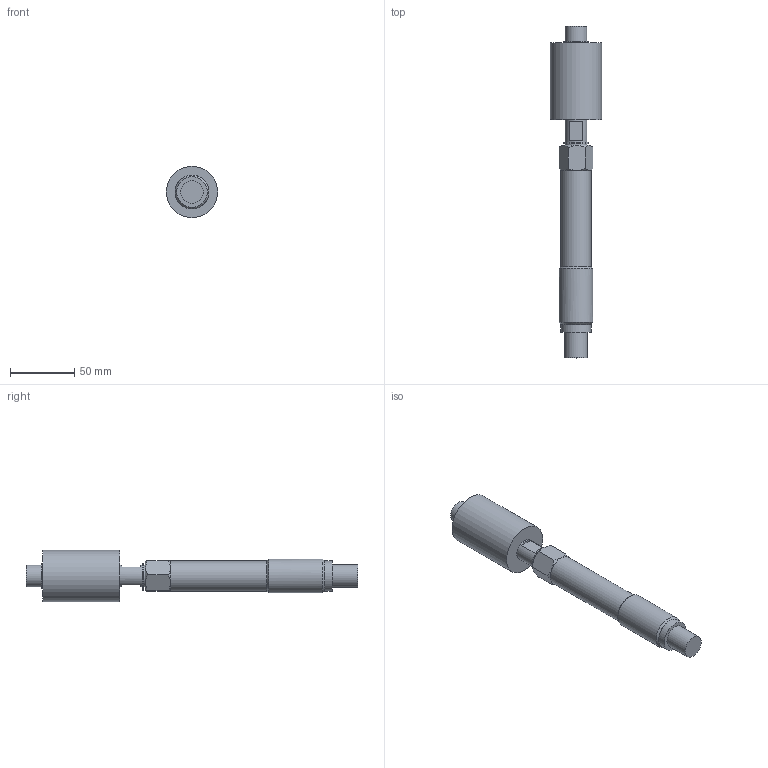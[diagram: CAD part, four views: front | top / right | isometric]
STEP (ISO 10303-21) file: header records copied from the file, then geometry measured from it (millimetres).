
FILE_DESCRIPTION (( 'STEP AP203' ), '1' );
FILE_NAME ('YICZ100PLLA-1(0).STEP', '2023-07-31T04:37:56', ( '' ), ( '' ), 'SwSTEP 2.0', 'SolidWorks 2021', '' );
FILE_SCHEMA (( 'CONFIG_CONTROL_DESIGN' ));
Length unit declared in the file: millimetre
Products named in the file (1): YICZ100PLLA-1(0)
Bounding box: 40 x 259 x 40 mm (x, y, z)
Volume: 152725.1 mm3; surface area: 40619.4 mm2
Topology: 1 solids, 1 shells, 53 faces, 117 edges, 77 vertices
Faces by surface type: plane 31, cylinder 16, cone 5, torus 1
Full cylindrical faces by diameter (mm): 1.7 x2, 16.2 x1, 17 x3, 17.9 x1, 18 x1, 19 x1, 23.5 x1, 24 x1, 26.441 x1, 40 x1
Entity records: 1507 total; most frequent: CARTESIAN_POINT 366, DIRECTION 228, ORIENTED_EDGE 176, AXIS2_PLACEMENT_3D 98, EDGE_LOOP 88, EDGE_CURVE 88, VERTEX_POINT 68, FACE_OUTER_BOUND 67
